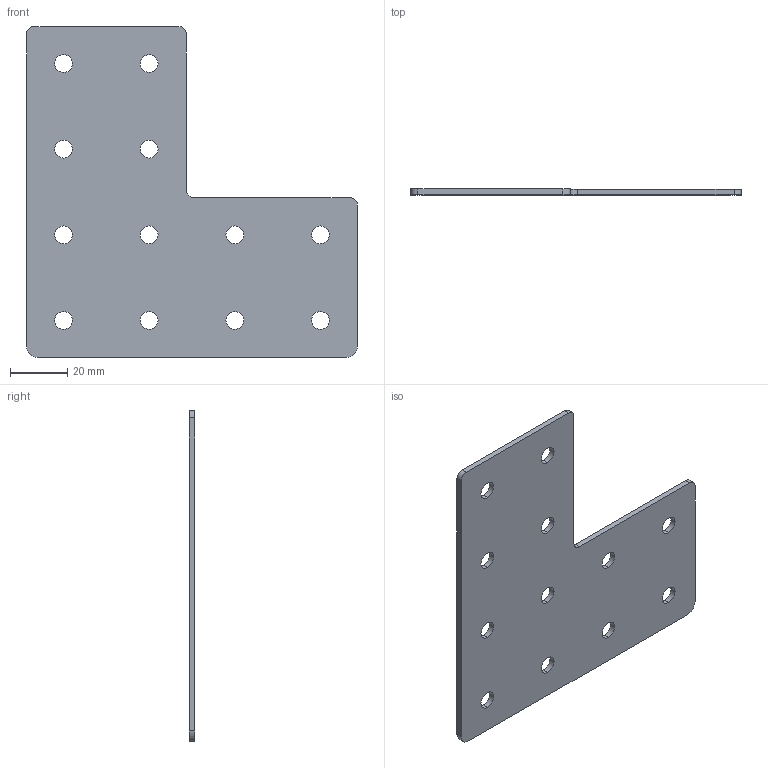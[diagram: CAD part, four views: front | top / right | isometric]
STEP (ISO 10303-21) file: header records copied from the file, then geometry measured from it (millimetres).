
FILE_DESCRIPTION (( 'STEP AP203' ), '1' );
FILE_NAME ('ﾃ-12-30.STEP', '2016-07-20T11:21:53', ( '' ), ( '' ), 'SwSTEP 2.0', 'SolidWorks 2014', '' );
FILE_SCHEMA (( 'CONFIG_CONTROL_DESIGN' ));
Length unit declared in the file: millimetre
Products named in the file (1): ﾃ-12-30
Bounding box: 116 x 2 x 116 mm (x, y, z)
Volume: 18969.1 mm3; surface area: 20349.1 mm2
Topology: 1 solids, 1 shells, 38 faces, 108 edges, 72 vertices
Faces by surface type: cylinder 30, plane 8
Entity records: 1397 total; most frequent: DIRECTION 246, CARTESIAN_POINT 219, ORIENTED_EDGE 216, EDGE_CURVE 108, AXIS2_PLACEMENT_3D 99, VERTEX_POINT 72, EDGE_LOOP 62, CIRCLE 60
